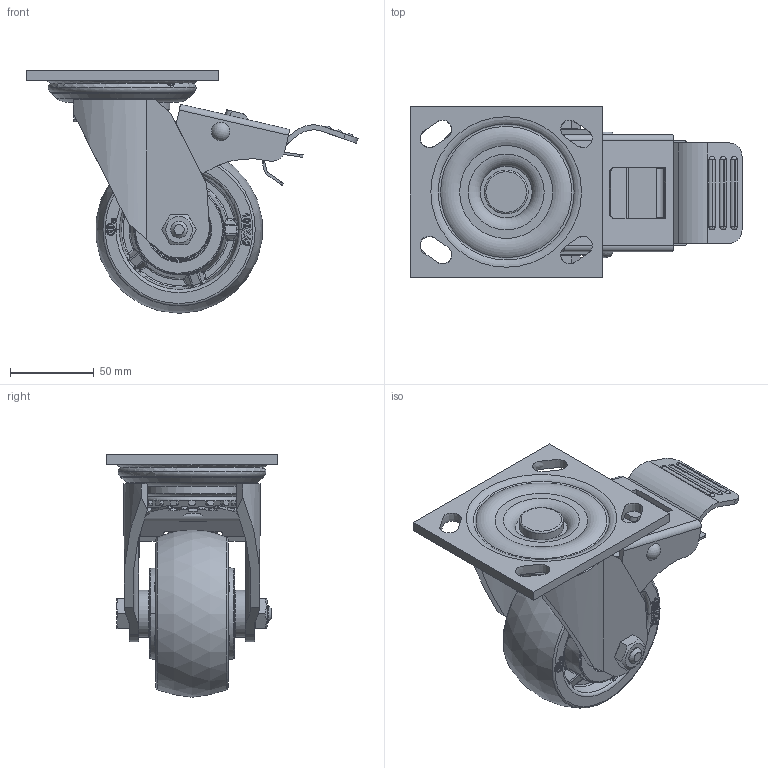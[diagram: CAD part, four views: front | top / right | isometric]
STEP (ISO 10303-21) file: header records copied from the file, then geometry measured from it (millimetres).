
FILE_DESCRIPTION(/* description */ (''),/* implementation_level */ '2;1');
FILE_NAME(/* name */ '35C03_4_R.stp',/* time_stamp */ '2022-08-29T08:13:40+08:00',/* author */ (''),/* organization */ (''),/* preprocessor_version */ 'ST-DEVELOPER v14',/* originating_system */ 'SIEMENS PLM Software NX 8.0',/* authorisation */ '');
FILE_SCHEMA (('AUTOMOTIVE_DESIGN { 1 0 10303 214 3 1 1 1 }'));
Length unit declared in the file: millimetre
Products named in the file (1): 35C03_4_R
Bounding box: 198.5 x 102 x 145 mm (x, y, z)
Surface area: 161811.1 mm2 (no closed solid volume)
Topology: 0 solids, 1 shells, 1291 faces, 3444 edges, 2222 vertices
Faces by surface type: plane 632, cylinder 296, bspline 129, torus 65, extrusion 63, sphere 47, cone 39, revolution 20
Full cylindrical faces by diameter (mm): 4 x1, 6.4 x1, 10.104 x4, 12 x1, 12.2 x2, 16.2 x1, 16.3 x1, 20.5 x2, 22.276 x1, 26.256 x1, 28 x2, 35.07 x2, 40 x1, 57 x1
Entity records: 48760 total; most frequent: CARTESIAN_POINT 19490, ORIENTED_EDGE 6496, DIRECTION 5156, EDGE_CURVE 3248, VERTEX_POINT 2144, AXIS2_PLACEMENT_3D 1810, EDGE_LOOP 1553, VECTOR 1516
